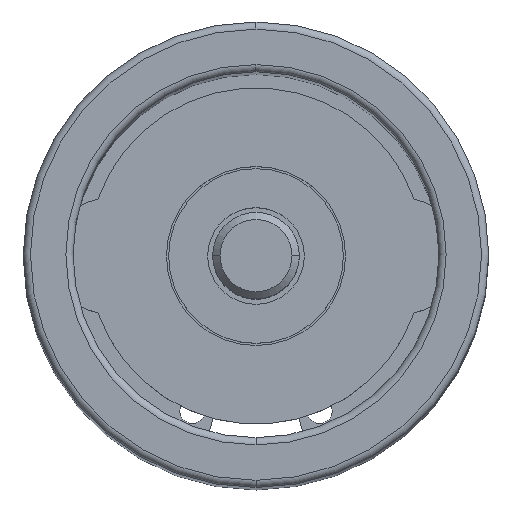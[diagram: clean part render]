
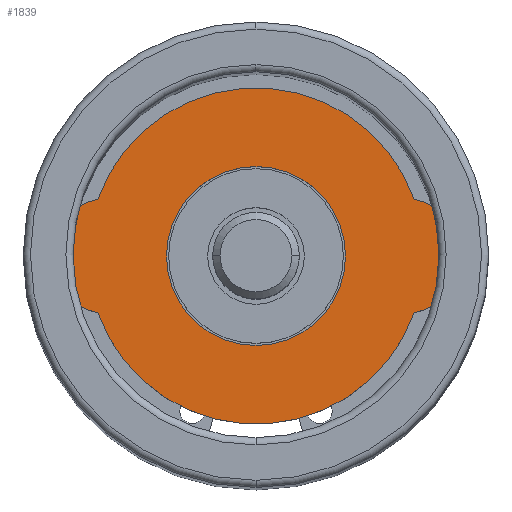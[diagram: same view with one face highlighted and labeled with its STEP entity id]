
A CAD part, top view. The second image highlights one B-rep face of the part: STEP entity #1839.
In plain terms, the highlighted planar face has unit normal (0, 0, 1).
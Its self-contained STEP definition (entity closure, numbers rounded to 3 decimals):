
#1701=CARTESIAN_POINT('',(6.2,0.,0.));
#1702=VERTEX_POINT('',#1701);
#1718=CARTESIAN_POINT('',(-6.2,0.,0.0));
#1719=VERTEX_POINT('',#1718);
#1726=CARTESIAN_POINT('',(0.0,0.,0.0));
#1727=DIRECTION('',(0.0,0.0,-1.0));
#1728=DIRECTION('',(1.0,0.0,0.0));
#1729=AXIS2_PLACEMENT_3D('',#1726,#1727,#1728);
#1730=CIRCLE('',#1729,6.2);
#1731=EDGE_CURVE('',#1702,#1719,#1730,.T.);
#1742=CARTESIAN_POINT('',(0.0,0.,0.0));
#1743=DIRECTION('',(0.0,0.0,-1.0));
#1744=DIRECTION('',(1.0,0.0,0.0));
#1745=AXIS2_PLACEMENT_3D('',#1742,#1743,#1744);
#1746=CIRCLE('',#1745,6.2);
#1747=EDGE_CURVE('',#1719,#1702,#1746,.T.);
#1767=CARTESIAN_POINT('',(-10.967,3.931,0.));
#1768=VERTEX_POINT('',#1767);
#1784=CARTESIAN_POINT('',(-10.967,-3.931,0.));
#1785=VERTEX_POINT('',#1784);
#1792=CARTESIAN_POINT('',(-10.225,0.,0.));
#1793=DIRECTION('',(0.0,0.0,-1.0));
#1794=DIRECTION('',(1.0,0.0,0.0));
#1795=AXIS2_PLACEMENT_3D('',#1792,#1793,#1794);
#1796=CIRCLE('',#1795,4.0);
#1797=EDGE_CURVE('',#1785,#1768,#1796,.T.);
#1802=CARTESIAN_POINT('',(0.0,0.,0.));
#1803=DIRECTION('',(0.0,0.0,1.0));
#1804=DIRECTION('',(1.0,0.0,0.0));
#1805=AXIS2_PLACEMENT_3D('',#1802,#1803,#1804);
#1806=PLANE('',#1805);
#1807=CARTESIAN_POINT('',(10.967,-3.931,0.));
#1808=VERTEX_POINT('',#1807);
#1809=CARTESIAN_POINT('',(0.0,0.,0.));
#1810=DIRECTION('',(0.0,0.0,-1.0));
#1811=DIRECTION('',(1.0,0.0,0.0));
#1812=AXIS2_PLACEMENT_3D('',#1809,#1810,#1811);
#1813=CIRCLE('',#1812,11.65);
#1814=EDGE_CURVE('',#1808,#1785,#1813,.T.);
#1815=ORIENTED_EDGE('',*,*,#1814,.F.);
#1816=CARTESIAN_POINT('',(10.967,3.931,0.));
#1817=VERTEX_POINT('',#1816);
#1818=CARTESIAN_POINT('',(10.225,0.,0.));
#1819=DIRECTION('',(0.0,0.0,-1.0));
#1820=DIRECTION('',(1.0,0.0,0.0));
#1821=AXIS2_PLACEMENT_3D('',#1818,#1819,#1820);
#1822=CIRCLE('',#1821,4.0);
#1823=EDGE_CURVE('',#1817,#1808,#1822,.T.);
#1824=ORIENTED_EDGE('',*,*,#1823,.F.);
#1825=CARTESIAN_POINT('',(0.0,0.,0.));
#1826=DIRECTION('',(0.0,0.0,-1.0));
#1827=DIRECTION('',(1.0,0.0,0.0));
#1828=AXIS2_PLACEMENT_3D('',#1825,#1826,#1827);
#1829=CIRCLE('',#1828,11.65);
#1830=EDGE_CURVE('',#1768,#1817,#1829,.T.);
#1831=ORIENTED_EDGE('',*,*,#1830,.F.);
#1832=ORIENTED_EDGE('',*,*,#1797,.F.);
#1833=EDGE_LOOP('',(#1815,#1824,#1831,#1832));
#1834=FACE_OUTER_BOUND('',#1833,.T.);
#1835=ORIENTED_EDGE('',*,*,#1731,.T.);
#1836=ORIENTED_EDGE('',*,*,#1747,.T.);
#1837=EDGE_LOOP('',(#1835,#1836));
#1838=FACE_BOUND('',#1837,.T.);
#1839=ADVANCED_FACE('',(#1834,#1838),#1806,.T.);
